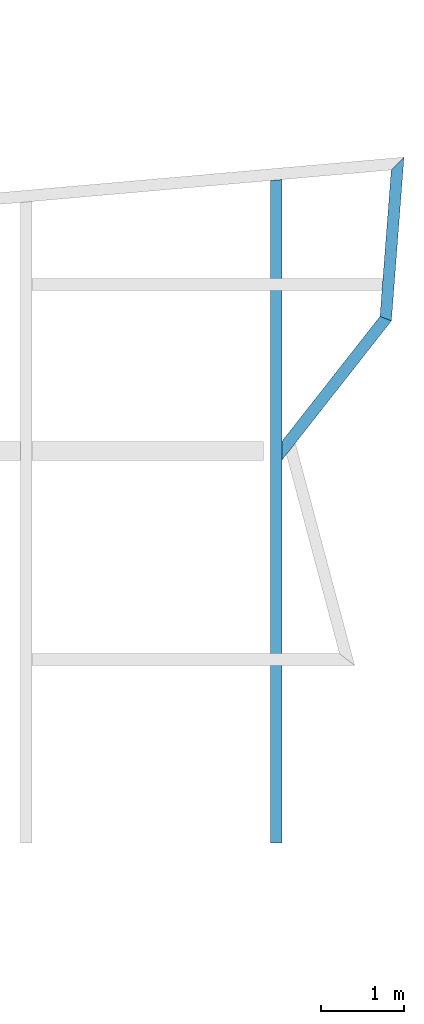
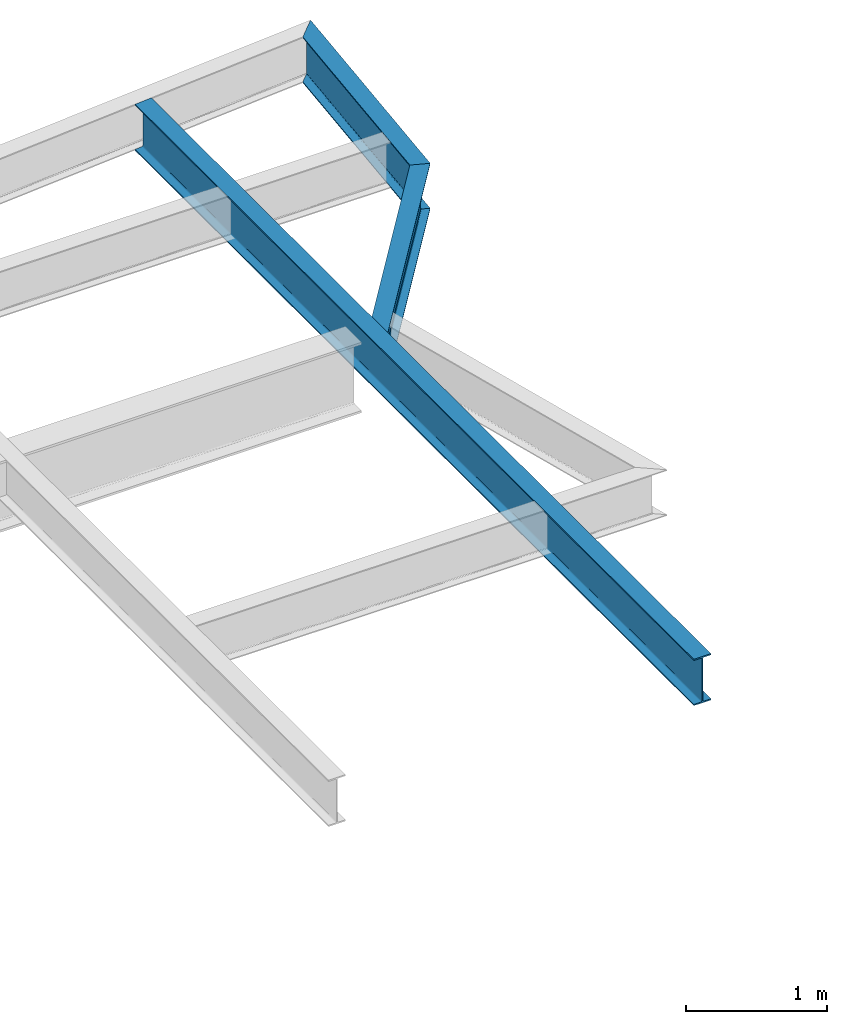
# One storey, part 21 of 21: 3 beams.
"""IFC2X3 building model written with IfcOpenShell, lengths in millimetres."""

import ifcopenshell
import ifcopenshell.guid

model = None  # the IFC model being written
_history = None  # IfcOwnerHistory: only IFC2X3 demands one
_inside = {}  # id of a spatial element -> (the spatial element, [elements in it])
_under = {}  # id of a project, library or spatial element -> (it, [spatial elements below it])
_declared = {}  # id of a project -> (the project, [libraries it declares])
_typed = {}  # id of a type object -> (the type object, [elements of that type])
_made_of = {}  # id of a material, layer set ... -> (it, [elements and type objects made of it])


def new_model(schema):
    """Start an empty IFC model of exactly this schema.

    Asked for "IFC4X3", IfcOpenShell would pick the latest addendum, in which some entities
    have other attributes; the version numbers below select the first issue.
    IFC2X3 requires an IfcOwnerHistory on every rooted entity: one is made here for all.
    """
    global model, _history
    if schema == "IFC4X3":
        model = ifcopenshell.file(schema_version=(4, 3, 0, 0))
    else:
        model = ifcopenshell.file(schema=schema)
    _inside.clear()
    _under.clear()
    _declared.clear()
    _typed.clear()
    _made_of.clear()
    _history = None
    if model.schema == "IFC2X3":
        org = make("IfcOrganization", Name="unknown")
        user = make(
            "IfcPersonAndOrganization",
            ThePerson=make("IfcPerson", FamilyName="unknown"),
            TheOrganization=org,
        )
        app = make(
            "IfcApplication",
            ApplicationDeveloper=org,
            Version="unknown",
            ApplicationFullName="unknown",
            ApplicationIdentifier="unknown",
        )
        _history = make(
            "IfcOwnerHistory",
            OwningUser=user,
            OwningApplication=app,
            ChangeAction="ADDED",
            CreationDate=0,
        )
    return model


def make(cls, **values):
    """One entity of the class cls with the attributes given. An attribute that is None is left unset."""
    return model.create_entity(
        cls, **{name: value for name, value in values.items() if value is not None}
    )


def rooted(cls, **values):
    """An entity with a GlobalId (a new one), such as an element, a storey or a relation."""
    return make(cls, GlobalId=ifcopenshell.guid.new(), OwnerHistory=_history, **values)


def si_unit(unit_type, name, prefix=None):
    """IfcSIUnit, for example si_unit("LENGTHUNIT", "METRE", prefix="MILLI")."""
    return make("IfcSIUnit", UnitType=unit_type, Prefix=prefix, Name=name)


def assignment(units):
    """IfcUnitAssignment: the units of a project."""
    return None if units is None else make("IfcUnitAssignment", Units=units)


def point(xyz):
    """IfcCartesianPoint."""
    return None if xyz is None else make("IfcCartesianPoint", Coordinates=xyz)


def direction(xyz):
    """IfcDirection."""
    return None if xyz is None else make("IfcDirection", DirectionRatios=xyz)


def frame(location, z_axis=None, x_axis=None):
    """IfcAxis2Placement3D, a coordinate frame: its origin and axes. An axis left out is left unset."""
    return make(
        "IfcAxis2Placement3D",
        Location=point(location),
        Axis=direction(z_axis),
        RefDirection=direction(x_axis),
    )


def origin():
    """The frame at (0, 0, 0) with its axes left unset."""
    return frame((0.0, 0.0, 0.0))


def place(relative_to, where):
    """IfcLocalPlacement: puts the frame where relative to a parent placement (None: the world)."""
    return make(
        "IfcLocalPlacement", PlacementRelTo=relative_to, RelativePlacement=where
    )


def context(
    kind, dimensions, precision=None, world=None, true_north=None, identifier=None
):
    """IfcGeometricRepresentationContext, for example the 3D "Model" context."""
    return make(
        "IfcGeometricRepresentationContext",
        ContextIdentifier=identifier,
        ContextType=kind,
        CoordinateSpaceDimension=dimensions,
        Precision=precision,
        WorldCoordinateSystem=world,
        TrueNorth=true_north,
    )


def project(units=None, contexts=None):
    """IfcProject with its units and contexts."""
    return rooted(
        "IfcProject",
        Name="project",
        RepresentationContexts=contexts,
        UnitsInContext=assignment(units),
    )


def spatial(cls, under=None, at=None, **own):
    """A site, building, storey or space (cls), placed at a placement, below another one or the project."""
    s = rooted(cls, ObjectPlacement=at, **own)
    if under is not None:
        _under.setdefault(under.id(), (under, []))[1].append(s)
    return s


def faces_of(points, faces, orient=None, outer=None):
    """IfcFace entities. A face is a list of loops; a loop is a list of indices into points, from 0.

    orient and outer hold one flag for each loop. By default every Orientation is true, the
    first loop of a face is its IfcFaceOuterBound and the others are IfcFaceBound.
    """
    made = []
    for i, loops in enumerate(faces):
        bounds = []
        for j, loop in enumerate(loops):
            is_outer = j == 0 if outer is None else outer[i][j]
            bounds.append(
                make(
                    "IfcFaceOuterBound" if is_outer else "IfcFaceBound",
                    Bound=make("IfcPolyLoop", Polygon=[points[k] for k in loop]),
                    Orientation=True if orient is None else orient[i][j],
                )
            )
        made.append(make("IfcFace", Bounds=bounds))
    return made


def faceted_brep(points, faces, orient=None, outer=None, voids=None):
    """IfcFacetedBrep: a solid bounded by flat faces; with voids (closed shells), ...WithVoids."""
    shared = [point(p) for p in points]
    hull = make("IfcClosedShell", CfsFaces=faces_of(shared, faces, orient, outer))
    if voids is None:
        return make("IfcFacetedBrep", Outer=hull)
    return make(
        "IfcFacetedBrepWithVoids",
        Outer=hull,
        Voids=[
            make(cls, CfsFaces=faces_of(shared, fs, o, b)) for cls, fs, o, b in voids
        ],
    )


def shape(context_of_items, identifier, shape_type, items):
    """IfcShapeRepresentation: the items that make up one representation, for example the "Body"."""
    return make(
        "IfcShapeRepresentation",
        ContextOfItems=context_of_items,
        RepresentationIdentifier=identifier,
        RepresentationType=shape_type,
        Items=items,
    )


def material(Name=None, Category=None):
    """IfcMaterial."""
    return make("IfcMaterial", Name=Name, Category=Category)


def made_of(thing, what):
    """Note that an element or type object is made of a material, layer set ...; save() writes the relation."""
    if what is not None:
        _made_of.setdefault(what.id(), (what, []))[1].append(thing)
    return thing


def element(
    cls,
    number,
    at=None,
    inside=None,
    cuts=None,
    type_object=None,
    material=None,
    context=None,
    identifier="Body",
    shape_type=None,
    held_by="IfcProductDefinitionShape",
    body=None,
    shapes=None,
    **own,
):
    """One element of the class cls, such as IfcWall. Its Tag is "e" and its number.

    at: its placement. inside: the storey or other place that contains it. cuts: it is an
    opening in that element (IfcRelVoidsElement). A single representation is given by context,
    identifier, shape_type and body (its items); several are given by shapes. held_by: the class
    of the entity that holds the representations. save() writes the other relations.
    """
    e = rooted(cls, Tag="e%d" % number, ObjectPlacement=at, **own)
    if body is not None:
        shapes = [shape(context, identifier, shape_type, body)]
    if shapes is not None:
        e.Representation = make(held_by, Representations=shapes)
    if inside is not None:
        _inside.setdefault(inside.id(), (inside, []))[1].append(e)
    if cuts is not None:
        rooted(
            "IfcRelVoidsElement", RelatingBuildingElement=cuts, RelatedOpeningElement=e
        )
    if type_object is not None:
        _typed.setdefault(type_object.id(), (type_object, []))[1].append(e)
    return made_of(e, material)


def aggregate(whole, parts):
    """IfcRelAggregates: a whole, such as a stair, and the parts it consists of."""
    return rooted("IfcRelAggregates", RelatingObject=whole, RelatedObjects=parts)


def save(model, path):
    """Write the relations noted so far, then the file.

    IfcRelAggregates (storeys below a building ...), IfcRelContainedInSpatialStructure (elements
    in a storey), IfcRelDefinesByType, IfcRelAssociatesMaterial and IfcRelDeclares: one each for
    every whole, place, type object, material and project.
    """
    for whole, parts in _under.values():
        aggregate(whole, parts)
    for where, things in _inside.values():
        rooted(
            "IfcRelContainedInSpatialStructure",
            RelatedElements=things,
            RelatingStructure=where,
        )
    for kind, things in _typed.values():
        rooted("IfcRelDefinesByType", RelatedObjects=things, RelatingType=kind)
    for what, things in _made_of.values():
        rooted("IfcRelAssociatesMaterial", RelatedObjects=things, RelatingMaterial=what)
    for by, libraries in _declared.values():
        rooted("IfcRelDeclares", RelatingContext=by, RelatedDefinitions=libraries)
    model.write(path)


model = new_model("IFC2X3")

# Units and contexts
context_of_model = context(None, 3, precision=1e-05, world=origin())
ifc_project = project(units=[si_unit("LENGTHUNIT", "METRE", prefix="MILLI")], contexts=[context_of_model])

# Building, storey
building = spatial("IfcBuilding", under=ifc_project, Name="Building", CompositionType="ELEMENT")
storey = spatial("IfcBuildingStorey", under=building, Name="FL6-FRM", CompositionType="ELEMENT")

# Beams
ifc_material_1 = material(Name="A992")
beam_1_placement = place(None, origin())
element("IfcBeam", 1, at=beam_1_placement, inside=storey, material=ifc_material_1, Name="B909", context=context_of_model, shape_type="Brep", body=[
    faceted_brep([(83930.0, 30246.2, 21970.0), (84070.0, 30258.5, 21970.0), (84070.0, 22300.0, 21970.0), (83930.0, 22300.0, 21970.0), (84070.0, 30258.5, 21981.2), (84070.0, 22300.0, 21981.2), (84013.7, 30253.6, 21981.2), (84013.7, 22300.0, 21981.2), (84012.2, 30253.4, 21981.3), (84012.2, 22300.0, 21981.3), (84010.8, 30253.3, 21981.6), (84010.8, 22300.0, 21981.6), (84009.5, 30253.2, 21982.1), (84009.5, 22300.0, 21982.1), (84008.2, 30253.1, 21982.8), (84008.2, 22300.0, 21982.8), (84007.0, 30253.0, 21983.7), (84007.0, 22300.0, 21983.7), (84006.0, 30252.9, 21984.7), (84006.0, 22300.0, 21984.7), (84005.1, 30252.8, 21985.9), (84005.1, 22300.0, 21985.9), (84004.4, 30252.8, 21987.2), (84004.4, 22300.0, 21987.2), (84003.9, 30252.7, 21988.5), (84003.9, 22300.0, 21988.5), (84003.6, 30252.7, 21989.9), (84003.6, 22300.0, 21989.9), (84003.5, 30252.7, 21991.4), (84003.5, 22300.0, 21991.4), (84003.5, 30252.7, 22351.6), (84003.5, 22300.0, 22351.6), (84003.6, 30252.7, 22353.1), (84003.6, 22300.0, 22353.1), (84003.9, 30252.7, 22354.5), (84003.9, 22300.0, 22354.5), (84004.4, 30252.8, 22355.8), (84004.4, 22300.0, 22355.8), (84005.1, 30252.8, 22357.1), (84005.1, 22300.0, 22357.1), (84006.0, 30252.9, 22358.3), (84006.0, 22300.0, 22358.3), (84007.0, 30253.0, 22359.3), (84007.0, 22300.0, 22359.3), (84008.2, 30253.1, 22360.2), (84008.2, 22300.0, 22360.2), (84009.5, 30253.2, 22360.9), (84009.5, 22300.0, 22360.9), (84010.8, 30253.3, 22361.4), (84010.8, 22300.0, 22361.4), (84012.2, 30253.4, 22361.7), (84012.2, 22300.0, 22361.7), (84013.7, 30253.6, 22361.8), (84013.7, 22300.0, 22361.8), (84070.0, 30258.5, 22361.8), (84070.0, 22300.0, 22361.8), (84070.0, 30258.5, 22373.0), (84070.0, 22300.0, 22373.0), (83930.0, 30246.2, 22373.0), (83930.0, 22300.0, 22373.0), (83930.0, 30246.2, 22361.8), (83930.0, 22300.0, 22361.8), (83986.3, 30251.2, 22361.8), (83986.3, 22300.0, 22361.8), (83987.8, 30251.3, 22361.7), (83987.8, 22300.0, 22361.7), (83989.2, 30251.4, 22361.4), (83989.2, 22300.0, 22361.4), (83990.5, 30251.5, 22360.9), (83990.5, 22300.0, 22360.9), (83991.8, 30251.7, 22360.2), (83991.8, 22300.0, 22360.2), (83993.0, 30251.8, 22359.3), (83993.0, 22300.0, 22359.3), (83994.0, 30251.8, 22358.3), (83994.0, 22300.0, 22358.3), (83994.9, 30251.9, 22357.1), (83994.9, 22300.0, 22357.1), (83995.6, 30252.0, 22355.8), (83995.6, 22300.0, 22355.8), (83996.1, 30252.0, 22354.5), (83996.1, 22300.0, 22354.5), (83996.4, 30252.1, 22353.1), (83996.4, 22300.0, 22353.1), (83996.5, 30252.1, 22351.6), (83996.5, 22300.0, 22351.6), (83996.5, 30252.1, 21991.4), (83996.5, 22300.0, 21991.4), (83996.4, 30252.1, 21989.9), (83996.4, 22300.0, 21989.9), (83996.1, 30252.0, 21988.5), (83996.1, 22300.0, 21988.5), (83995.6, 30252.0, 21987.2), (83995.6, 22300.0, 21987.2), (83994.9, 30251.9, 21985.9), (83994.9, 22300.0, 21985.9), (83994.0, 30251.8, 21984.7), (83994.0, 22300.0, 21984.7), (83993.0, 30251.8, 21983.7), (83993.0, 22300.0, 21983.7), (83991.8, 30251.7, 21982.8), (83991.8, 22300.0, 21982.8), (83990.5, 30251.5, 21982.1), (83990.5, 22300.0, 21982.1), (83989.2, 30251.4, 21981.6), (83989.2, 22300.0, 21981.6), (83987.8, 30251.3, 21981.3), (83987.8, 22300.0, 21981.3), (83986.3, 30251.2, 21981.2), (83986.3, 22300.0, 21981.2), (83930.0, 30246.2, 21981.2), (83930.0, 22300.0, 21981.2)], [[[0, 1, 2, 3]], [[1, 4, 5, 2]], [[4, 6, 7, 5]], [[6, 8, 9, 7]], [[8, 10, 11, 9]], [[10, 12, 13, 11]], [[12, 14, 15, 13]], [[14, 16, 17, 15]], [[16, 18, 19, 17]], [[18, 20, 21, 19]], [[20, 22, 23, 21]], [[22, 24, 25, 23]], [[24, 26, 27, 25]], [[26, 28, 29, 27]], [[28, 30, 31, 29]], [[30, 32, 33, 31]], [[32, 34, 35, 33]], [[34, 36, 37, 35]], [[36, 38, 39, 37]], [[38, 40, 41, 39]], [[40, 42, 43, 41]], [[42, 44, 45, 43]], [[44, 46, 47, 45]], [[46, 48, 49, 47]], [[48, 50, 51, 49]], [[50, 52, 53, 51]], [[52, 54, 55, 53]], [[54, 56, 57, 55]], [[56, 58, 59, 57]], [[58, 60, 61, 59]], [[60, 62, 63, 61]], [[62, 64, 65, 63]], [[64, 66, 67, 65]], [[66, 68, 69, 67]], [[68, 70, 71, 69]], [[70, 72, 73, 71]], [[72, 74, 75, 73]], [[74, 76, 77, 75]], [[76, 78, 79, 77]], [[78, 80, 81, 79]], [[80, 82, 83, 81]], [[82, 84, 85, 83]], [[84, 86, 87, 85]], [[86, 88, 89, 87]], [[88, 90, 91, 89]], [[90, 92, 93, 91]], [[92, 94, 95, 93]], [[94, 96, 97, 95]], [[96, 98, 99, 97]], [[98, 100, 101, 99]], [[100, 102, 103, 101]], [[102, 104, 105, 103]], [[104, 106, 107, 105]], [[106, 108, 109, 107]], [[108, 110, 111, 109]], [[110, 0, 3, 111]], [[0, 110, 108, 106, 104, 102, 100, 98, 96, 94, 92, 90, 88, 86, 84, 82, 80, 78, 76, 74, 72, 70, 68, 66, 64, 62, 60, 58, 56, 54, 52, 50, 48, 46, 44, 42, 40, 38, 36, 34, 32, 30, 28, 26, 24, 22, 20, 18, 16, 14, 12, 10, 8, 6, 4, 1]], [[3, 2, 5, 7, 9, 11, 13, 15, 17, 19, 21, 23, 25, 27, 29, 31, 33, 35, 37, 39, 41, 43, 45, 47, 49, 51, 53, 55, 57, 59, 61, 63, 65, 67, 69, 71, 73, 75, 77, 79, 81, 83, 85, 87, 89, 91, 93, 95, 97, 99, 101, 103, 105, 107, 109, 111]]]),
])
ifc_material_2 = material(Name="A992")
beam_2_placement = place(None, origin())
element("IfcBeam", 2, at=beam_2_placement, inside=storey, material=ifc_material_2, Name="B920", context=context_of_model, shape_type="Brep", body=[
    faceted_brep([(85380.1, 30373.4, 21974.0), (85532.4, 30527.3, 21974.0), (85381.3, 28563.1, 21974.0), (85244.9, 28616.2, 21974.0), (85532.4, 30527.3, 21982.8), (85381.3, 28563.1, 21982.8), (85470.8, 30465.1, 21982.8), (85326.2, 28584.5, 21982.8), (85469.3, 30463.5, 21982.9), (85324.7, 28585.1, 21982.9), (85467.7, 30462.0, 21983.2), (85323.4, 28585.6, 21983.2), (85466.2, 30460.5, 21983.7), (85322.0, 28586.1, 21983.7), (85464.9, 30459.1, 21984.4), (85320.8, 28586.6, 21984.4), (85463.6, 30457.8, 21985.2), (85319.7, 28587.1, 21985.3), (85462.5, 30456.7, 21986.3), (85318.7, 28587.5, 21986.3), (85461.5, 30455.7, 21987.4), (85317.8, 28587.8, 21987.5), (85460.7, 30454.9, 21988.7), (85317.1, 28588.1, 21988.8), (85460.2, 30454.4, 21990.1), (85316.6, 28588.2, 21990.1), (85459.9, 30454.1, 21991.5), (85316.3, 28588.4, 21991.5), (85459.7, 30453.9, 21993.0), (85316.2, 28588.4, 21993.0), (85459.7, 30453.9, 22354.0), (85316.2, 28588.4, 22354.0), (85459.9, 30454.1, 22355.5), (85316.3, 28588.4, 22355.5), (85460.2, 30454.4, 22356.9), (85316.6, 28588.2, 22356.9), (85460.7, 30454.9, 22358.3), (85317.1, 28588.1, 22358.2), (85461.5, 30455.7, 22359.6), (85317.8, 28587.8, 22359.5), (85462.5, 30456.7, 22360.7), (85318.7, 28587.5, 22360.7), (85463.6, 30457.8, 22361.8), (85319.7, 28587.1, 22361.7), (85464.9, 30459.1, 22362.6), (85320.8, 28586.6, 22362.6), (85466.2, 30460.5, 22363.3), (85322.0, 28586.1, 22363.3), (85467.7, 30462.0, 22363.8), (85323.4, 28585.6, 22363.8), (85469.3, 30463.5, 22364.1), (85324.7, 28585.1, 22364.1), (85470.8, 30465.1, 22364.2), (85326.2, 28584.5, 22364.2), (85532.4, 30527.3, 22364.2), (85381.3, 28563.1, 22364.2), (85532.4, 30527.3, 22373.0), (85381.3, 28563.1, 22373.0), (85380.1, 30373.4, 22373.0), (85244.9, 28616.2, 22373.0), (85380.1, 30373.4, 22364.2), (85244.9, 28616.2, 22364.2), (85441.7, 30435.7, 22364.2), (85300.1, 28594.7, 22364.2), (85443.2, 30437.2, 22364.1), (85301.5, 28594.1, 22364.1), (85444.8, 30438.8, 22363.8), (85302.9, 28593.6, 22363.8), (85446.3, 30440.3, 22363.3), (85304.2, 28593.1, 22363.3), (85447.6, 30441.7, 22362.6), (85305.4, 28592.6, 22362.6), (85448.9, 30443.0, 22361.8), (85306.6, 28592.2, 22361.7), (85450.0, 30444.1, 22360.7), (85307.6, 28591.8, 22360.7), (85451.0, 30445.0, 22359.6), (85308.4, 28591.4, 22359.5), (85451.8, 30445.8, 22358.3), (85309.1, 28591.2, 22358.2), (85452.3, 30446.4, 22356.9), (85309.6, 28591.0, 22356.9), (85452.6, 30446.7, 22355.5), (85309.9, 28590.9, 22355.5), (85452.8, 30446.9, 22354.0), (85310.0, 28590.8, 22354.0), (85452.8, 30446.9, 21993.0), (85310.0, 28590.8, 21993.0), (85452.6, 30446.7, 21991.5), (85309.9, 28590.9, 21991.5), (85452.3, 30446.4, 21990.1), (85309.6, 28591.0, 21990.1), (85451.8, 30445.8, 21988.7), (85309.1, 28591.2, 21988.8), (85451.0, 30445.0, 21987.4), (85308.4, 28591.4, 21987.5), (85450.0, 30444.1, 21986.3), (85307.6, 28591.8, 21986.3), (85448.9, 30443.0, 21985.2), (85306.6, 28592.2, 21985.3), (85447.6, 30441.7, 21984.4), (85305.4, 28592.6, 21984.4), (85446.3, 30440.3, 21983.7), (85304.2, 28593.1, 21983.7), (85444.8, 30438.8, 21983.2), (85302.9, 28593.6, 21983.2), (85443.2, 30437.2, 21982.9), (85301.5, 28594.1, 21982.9), (85441.7, 30435.7, 21982.8), (85300.1, 28594.7, 21982.8), (85380.1, 30373.4, 21982.8), (85244.9, 28616.2, 21982.8)], [[[0, 1, 2, 3]], [[1, 4, 5, 2]], [[4, 6, 7, 5]], [[6, 8, 9, 7]], [[8, 10, 11, 9]], [[10, 12, 13, 11]], [[12, 14, 15, 13]], [[14, 16, 17, 15]], [[16, 18, 19, 17]], [[18, 20, 21, 19]], [[20, 22, 23, 21]], [[22, 24, 25, 23]], [[24, 26, 27, 25]], [[26, 28, 29, 27]], [[28, 30, 31, 29]], [[30, 32, 33, 31]], [[32, 34, 35, 33]], [[34, 36, 37, 35]], [[36, 38, 39, 37]], [[38, 40, 41, 39]], [[40, 42, 43, 41]], [[42, 44, 45, 43]], [[44, 46, 47, 45]], [[46, 48, 49, 47]], [[48, 50, 51, 49]], [[50, 52, 53, 51]], [[52, 54, 55, 53]], [[54, 56, 57, 55]], [[56, 58, 59, 57]], [[58, 60, 61, 59]], [[60, 62, 63, 61]], [[62, 64, 65, 63]], [[64, 66, 67, 65]], [[66, 68, 69, 67]], [[68, 70, 71, 69]], [[70, 72, 73, 71]], [[72, 74, 75, 73]], [[74, 76, 77, 75]], [[76, 78, 79, 77]], [[78, 80, 81, 79]], [[80, 82, 83, 81]], [[82, 84, 85, 83]], [[84, 86, 87, 85]], [[86, 88, 89, 87]], [[88, 90, 91, 89]], [[90, 92, 93, 91]], [[92, 94, 95, 93]], [[94, 96, 97, 95]], [[96, 98, 99, 97]], [[98, 100, 101, 99]], [[100, 102, 103, 101]], [[102, 104, 105, 103]], [[104, 106, 107, 105]], [[106, 108, 109, 107]], [[108, 110, 111, 109]], [[110, 0, 3, 111]], [[0, 110, 108, 106, 104, 102, 100, 98, 96, 94, 92, 90, 88, 86, 84, 82, 80, 78, 76, 74, 72, 70, 68, 66, 64, 62, 60, 58, 56, 54, 52, 50, 48, 46, 44, 42, 40, 38, 36, 34, 32, 30, 28, 26, 24, 22, 20, 18, 16, 14, 12, 10, 8, 6, 4, 1]], [[3, 2, 5, 7, 9, 11, 13, 15, 17, 19, 21, 23, 25, 27, 29, 31, 33, 35, 37, 39, 41, 43, 45, 47, 49, 51, 53, 55, 57, 59, 61, 63, 65, 67, 69, 71, 73, 75, 77, 79, 81, 83, 85, 87, 89, 91, 93, 95, 97, 99, 101, 103, 105, 107, 109, 111]]]),
])
ifc_material_3 = material(Name="A992")
beam_3_placement = place(None, origin())
element("IfcBeam", 3, at=beam_3_placement, inside=storey, material=ifc_material_3, Name="B921", context=context_of_model, shape_type="Brep", body=[
    faceted_brep([(85244.9, 28616.2, 21974.0), (85381.3, 28563.1, 21974.0), (84070.0, 26894.2, 21974.0), (84070.0, 27120.8, 21974.0), (85381.3, 28563.1, 21982.8), (84070.0, 26894.2, 21982.8), (85326.2, 28584.5, 21982.8), (84070.0, 26985.8, 21982.8), (85324.7, 28585.1, 21982.9), (84070.0, 26988.1, 21982.9), (85323.4, 28585.6, 21983.2), (84070.0, 26990.4, 21983.2), (85322.0, 28586.1, 21983.7), (84070.0, 26992.6, 21983.7), (85320.8, 28586.6, 21984.4), (84070.0, 26994.6, 21984.4), (85319.7, 28587.1, 21985.3), (84070.0, 26996.6, 21985.2), (85318.7, 28587.5, 21986.3), (84070.0, 26998.2, 21986.3), (85317.8, 28587.8, 21987.5), (84070.0, 26999.6, 21987.4), (85317.1, 28588.1, 21988.8), (84070.0, 27000.8, 21988.7), (85316.6, 28588.2, 21990.1), (84070.0, 27001.6, 21990.1), (85316.3, 28588.4, 21991.5), (84070.0, 27002.1, 21991.5), (85316.2, 28588.4, 21993.0), (84070.0, 27002.3, 21993.0), (85316.2, 28588.4, 22354.0), (84070.0, 27002.3, 22354.0), (85316.3, 28588.4, 22355.5), (84070.0, 27002.1, 22355.5), (85316.6, 28588.2, 22356.9), (84070.0, 27001.6, 22356.9), (85317.1, 28588.1, 22358.2), (84070.0, 27000.8, 22358.3), (85317.8, 28587.8, 22359.5), (84070.0, 26999.6, 22359.6), (85318.7, 28587.5, 22360.7), (84070.0, 26998.2, 22360.7), (85319.7, 28587.1, 22361.7), (84070.0, 26996.6, 22361.8), (85320.8, 28586.6, 22362.6), (84070.0, 26994.6, 22362.6), (85322.0, 28586.1, 22363.3), (84070.0, 26992.6, 22363.3), (85323.4, 28585.6, 22363.8), (84070.0, 26990.4, 22363.8), (85324.7, 28585.1, 22364.1), (84070.0, 26988.1, 22364.1), (85326.2, 28584.5, 22364.2), (84070.0, 26985.8, 22364.2), (85381.3, 28563.1, 22364.2), (84070.0, 26894.2, 22364.2), (85381.3, 28563.1, 22373.0), (84070.0, 26894.2, 22373.0), (85244.9, 28616.2, 22373.0), (84070.0, 27120.8, 22373.0), (85244.9, 28616.2, 22364.2), (84070.0, 27120.8, 22364.2), (85300.1, 28594.7, 22364.2), (84070.0, 27029.2, 22364.2), (85301.5, 28594.1, 22364.1), (84070.0, 27026.8, 22364.1), (85302.9, 28593.6, 22363.8), (84070.0, 27024.5, 22363.8), (85304.2, 28593.1, 22363.3), (84070.0, 27022.3, 22363.3), (85305.4, 28592.6, 22362.6), (84070.0, 27020.3, 22362.6), (85306.6, 28592.2, 22361.7), (84070.0, 27018.4, 22361.8), (85307.6, 28591.8, 22360.7), (84070.0, 27016.7, 22360.7), (85308.4, 28591.4, 22359.5), (84070.0, 27015.3, 22359.6), (85309.1, 28591.2, 22358.2), (84070.0, 27014.2, 22358.3), (85309.6, 28591.0, 22356.9), (84070.0, 27013.4, 22356.9), (85309.9, 28590.9, 22355.5), (84070.0, 27012.9, 22355.5), (85310.0, 28590.8, 22354.0), (84070.0, 27012.7, 22354.0), (85310.0, 28590.8, 21993.0), (84070.0, 27012.7, 21993.0), (85309.9, 28590.9, 21991.5), (84070.0, 27012.9, 21991.5), (85309.6, 28591.0, 21990.1), (84070.0, 27013.4, 21990.1), (85309.1, 28591.2, 21988.8), (84070.0, 27014.2, 21988.7), (85308.4, 28591.4, 21987.5), (84070.0, 27015.3, 21987.4), (85307.6, 28591.8, 21986.3), (84070.0, 27016.7, 21986.3), (85306.6, 28592.2, 21985.3), (84070.0, 27018.4, 21985.2), (85305.4, 28592.6, 21984.4), (84070.0, 27020.3, 21984.4), (85304.2, 28593.1, 21983.7), (84070.0, 27022.3, 21983.7), (85302.9, 28593.6, 21983.2), (84070.0, 27024.5, 21983.2), (85301.5, 28594.1, 21982.9), (84070.0, 27026.8, 21982.9), (85300.1, 28594.7, 21982.8), (84070.0, 27029.2, 21982.8), (85244.9, 28616.2, 21982.8), (84070.0, 27120.8, 21982.8)], [[[0, 1, 2, 3]], [[1, 4, 5, 2]], [[4, 6, 7, 5]], [[6, 8, 9, 7]], [[8, 10, 11, 9]], [[10, 12, 13, 11]], [[12, 14, 15, 13]], [[14, 16, 17, 15]], [[16, 18, 19, 17]], [[18, 20, 21, 19]], [[20, 22, 23, 21]], [[22, 24, 25, 23]], [[24, 26, 27, 25]], [[26, 28, 29, 27]], [[28, 30, 31, 29]], [[30, 32, 33, 31]], [[32, 34, 35, 33]], [[34, 36, 37, 35]], [[36, 38, 39, 37]], [[38, 40, 41, 39]], [[40, 42, 43, 41]], [[42, 44, 45, 43]], [[44, 46, 47, 45]], [[46, 48, 49, 47]], [[48, 50, 51, 49]], [[50, 52, 53, 51]], [[52, 54, 55, 53]], [[54, 56, 57, 55]], [[56, 58, 59, 57]], [[58, 60, 61, 59]], [[60, 62, 63, 61]], [[62, 64, 65, 63]], [[64, 66, 67, 65]], [[66, 68, 69, 67]], [[68, 70, 71, 69]], [[70, 72, 73, 71]], [[72, 74, 75, 73]], [[74, 76, 77, 75]], [[76, 78, 79, 77]], [[78, 80, 81, 79]], [[80, 82, 83, 81]], [[82, 84, 85, 83]], [[84, 86, 87, 85]], [[86, 88, 89, 87]], [[88, 90, 91, 89]], [[90, 92, 93, 91]], [[92, 94, 95, 93]], [[94, 96, 97, 95]], [[96, 98, 99, 97]], [[98, 100, 101, 99]], [[100, 102, 103, 101]], [[102, 104, 105, 103]], [[104, 106, 107, 105]], [[106, 108, 109, 107]], [[108, 110, 111, 109]], [[110, 0, 3, 111]], [[0, 110, 108, 106, 104, 102, 100, 98, 96, 94, 92, 90, 88, 86, 84, 82, 80, 78, 76, 74, 72, 70, 68, 66, 64, 62, 60, 58, 56, 54, 52, 50, 48, 46, 44, 42, 40, 38, 36, 34, 32, 30, 28, 26, 24, 22, 20, 18, 16, 14, 12, 10, 8, 6, 4, 1]], [[3, 2, 5, 7, 9, 11, 13, 15, 17, 19, 21, 23, 25, 27, 29, 31, 33, 35, 37, 39, 41, 43, 45, 47, 49, 51, 53, 55, 57, 59, 61, 63, 65, 67, 69, 71, 73, 75, 77, 79, 81, 83, 85, 87, 89, 91, 93, 95, 97, 99, 101, 103, 105, 107, 109, 111]]]),
])

save(model, "model.ifc")
